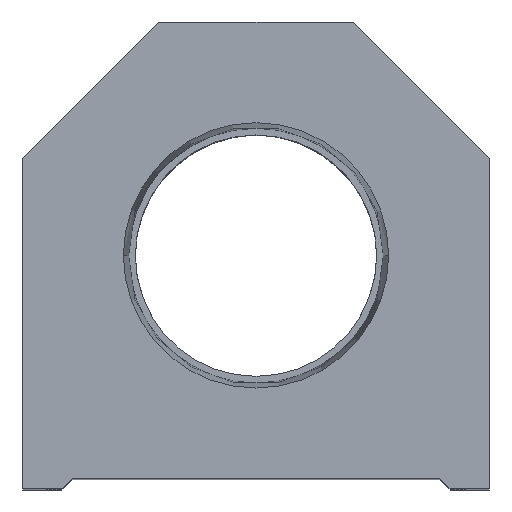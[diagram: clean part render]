
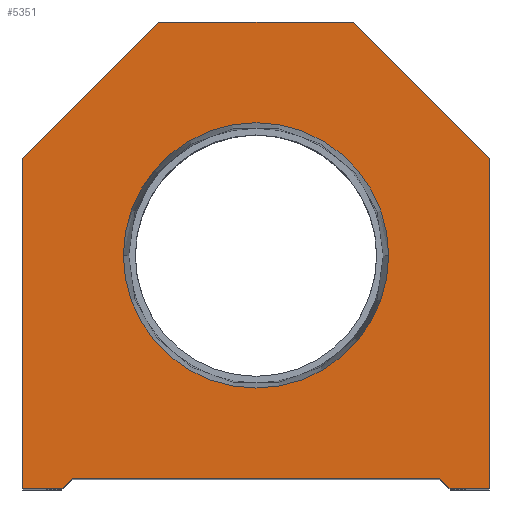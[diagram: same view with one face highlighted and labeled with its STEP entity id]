
A CAD part, top view. The second image highlights one B-rep face of the part: STEP entity #5351.
In plain terms, the highlighted planar face has unit normal (0, 0, 1).
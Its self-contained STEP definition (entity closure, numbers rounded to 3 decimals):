
#91 = CARTESIAN_POINT ( 'NONE',  ( -22.25, 0., 0. ) ) ;
#98 = ORIENTED_EDGE ( 'NONE', *, *, #8932, .T. ) ;
#340 = ORIENTED_EDGE ( 'NONE', *, *, #9109, .T. ) ;
#350 = DIRECTION ( 'NONE',  ( 0., 0., 1. ) ) ;
#809 = VERTEX_POINT ( 'NONE', #8185 ) ;
#838 = DIRECTION ( 'NONE',  ( -1., 0., 0. ) ) ;
#1093 = FACE_BOUND ( 'NONE', #5544, .T. ) ;
#1149 = VECTOR ( 'NONE', #12521, 1000. ) ;
#1247 = CARTESIAN_POINT ( 'NONE',  ( 12.647, 22.25, 0. ) ) ;
#1600 = EDGE_CURVE ( 'NONE', #8613, #6154, #11568, .T. ) ;
#1685 = CARTESIAN_POINT ( 'NONE',  ( 9.25, 44.5, 0. ) ) ;
#1744 = VERTEX_POINT ( 'NONE', #91 ) ;
#1757 = DIRECTION ( 'NONE',  ( 0.707, 0.707, 0. ) ) ;
#1796 = LINE ( 'NONE', #6098, #8555 ) ;
#1819 = VECTOR ( 'NONE', #838, 1000. ) ;
#1822 = EDGE_CURVE ( 'NONE', #6781, #12343, #13890, .T. ) ;
#1835 = ORIENTED_EDGE ( 'NONE', *, *, #12885, .T. ) ;
#1958 = ORIENTED_EDGE ( 'NONE', *, *, #10977, .T. ) ;
#2007 = VERTEX_POINT ( 'NONE', #12438 ) ;
#2249 = ORIENTED_EDGE ( 'NONE', *, *, #3517, .T. ) ;
#2461 = VECTOR ( 'NONE', #8399, 1000. ) ;
#2490 = VERTEX_POINT ( 'NONE', #4259 ) ;
#2636 = CARTESIAN_POINT ( 'NONE',  ( -12.647, 22.25, 0. ) ) ;
#2810 = ORIENTED_EDGE ( 'NONE', *, *, #1600, .T. ) ;
#3210 = VECTOR ( 'NONE', #1757, 1000. ) ;
#3247 = EDGE_CURVE ( 'NONE', #809, #1744, #6111, .T. ) ;
#3327 = PLANE ( 'NONE',  #4401 ) ;
#3517 = EDGE_CURVE ( 'NONE', #2490, #12066, #10324, .T. ) ;
#3740 = EDGE_CURVE ( 'NONE', #12062, #2007, #9640, .T. ) ;
#4259 = CARTESIAN_POINT ( 'NONE',  ( -18.5, 0., 0. ) ) ;
#4401 = AXIS2_PLACEMENT_3D ( 'NONE', #7799, #10992, #13201 ) ;
#4911 = DIRECTION ( 'NONE',  ( 1., 0., 0. ) ) ;
#5023 = DIRECTION ( 'NONE',  ( -0.707, 0.707, 0. ) ) ;
#5351 = ADVANCED_FACE ( 'NONE', ( #1093, #12127 ), #3327, .T. ) ;
#5436 = DIRECTION ( 'NONE',  ( 0.707, -0.707, 0. ) ) ;
#5447 = ORIENTED_EDGE ( 'NONE', *, *, #3247, .T. ) ;
#5539 = CARTESIAN_POINT ( 'NONE',  ( 22.25, 0., 0. ) ) ;
#5544 = EDGE_LOOP ( 'NONE', ( #7643, #9717 ) ) ;
#5680 = CARTESIAN_POINT ( 'NONE',  ( -17.5, 0., 0. ) ) ;
#6098 = CARTESIAN_POINT ( 'NONE',  ( -17.5, 1., 0. ) ) ;
#6111 = LINE ( 'NONE', #9160, #9795 ) ;
#6122 = CARTESIAN_POINT ( 'NONE',  ( 9.25, 44.5, 0. ) ) ;
#6127 = CARTESIAN_POINT ( 'NONE',  ( 0., 22.25, 0. ) ) ;
#6154 = VERTEX_POINT ( 'NONE', #1685 ) ;
#6186 = VERTEX_POINT ( 'NONE', #10384 ) ;
#6781 = VERTEX_POINT ( 'NONE', #2636 ) ;
#6907 = AXIS2_PLACEMENT_3D ( 'NONE', #10026, #350, #4911 ) ;
#7323 = EDGE_CURVE ( 'NONE', #12343, #6781, #13036, .T. ) ;
#7643 = ORIENTED_EDGE ( 'NONE', *, *, #7323, .F. ) ;
#7799 = CARTESIAN_POINT ( 'NONE',  ( 0., 0., 0. ) ) ;
#7832 = LINE ( 'NONE', #5680, #10107 ) ;
#7867 = DIRECTION ( 'NONE',  ( 1., 0., 0. ) ) ;
#8145 = ORIENTED_EDGE ( 'NONE', *, *, #3740, .T. ) ;
#8185 = CARTESIAN_POINT ( 'NONE',  ( -22.25, 31.5, 0. ) ) ;
#8297 = DIRECTION ( 'NONE',  ( 0., -1., 0. ) ) ;
#8311 = DIRECTION ( 'NONE',  ( 0., 0., 1. ) ) ;
#8399 = DIRECTION ( 'NONE',  ( -0.707, -0.707, 0. ) ) ;
#8555 = VECTOR ( 'NONE', #11434, 1000. ) ;
#8613 = VERTEX_POINT ( 'NONE', #12757 ) ;
#8670 = CARTESIAN_POINT ( 'NONE',  ( -9.25, 44.5, 0. ) ) ;
#8932 = EDGE_CURVE ( 'NONE', #6186, #8613, #10876, .T. ) ;
#9109 = EDGE_CURVE ( 'NONE', #1744, #2490, #7832, .T. ) ;
#9160 = CARTESIAN_POINT ( 'NONE',  ( -22.25, 0., 0. ) ) ;
#9235 = CARTESIAN_POINT ( 'NONE',  ( 17.5, 0., 0. ) ) ;
#9640 = LINE ( 'NONE', #9855, #13899 ) ;
#9664 = VERTEX_POINT ( 'NONE', #8670 ) ;
#9717 = ORIENTED_EDGE ( 'NONE', *, *, #1822, .F. ) ;
#9795 = VECTOR ( 'NONE', #8297, 1000. ) ;
#9855 = CARTESIAN_POINT ( 'NONE',  ( 9.25, 9.25, 0. ) ) ;
#10020 = DIRECTION ( 'NONE',  ( 1., 0., 0. ) ) ;
#10026 = CARTESIAN_POINT ( 'NONE',  ( 0., 22.25, 0. ) ) ;
#10107 = VECTOR ( 'NONE', #10020, 1000. ) ;
#10160 = CARTESIAN_POINT ( 'NONE',  ( 17.5, 1., 0. ) ) ;
#10223 = EDGE_LOOP ( 'NONE', ( #340, #2249, #11705, #8145, #1958, #98, #2810, #1835, #10943, #5447 ) ) ;
#10324 = LINE ( 'NONE', #13739, #3210 ) ;
#10347 = LINE ( 'NONE', #12554, #2461 ) ;
#10384 = CARTESIAN_POINT ( 'NONE',  ( 22.25, 0., 0. ) ) ;
#10876 = LINE ( 'NONE', #5539, #12379 ) ;
#10943 = ORIENTED_EDGE ( 'NONE', *, *, #11636, .T. ) ;
#10977 = EDGE_CURVE ( 'NONE', #2007, #6186, #13311, .T. ) ;
#10992 = DIRECTION ( 'NONE',  ( 0., 0., 1. ) ) ;
#11419 = EDGE_CURVE ( 'NONE', #12066, #12062, #1796, .T. ) ;
#11434 = DIRECTION ( 'NONE',  ( 1., 0., 0. ) ) ;
#11530 = LINE ( 'NONE', #6122, #1819 ) ;
#11568 = LINE ( 'NONE', #12631, #13197 ) ;
#11636 = EDGE_CURVE ( 'NONE', #9664, #809, #10347, .T. ) ;
#11705 = ORIENTED_EDGE ( 'NONE', *, *, #11419, .T. ) ;
#11727 = DIRECTION ( 'NONE',  ( 0., 1., 0. ) ) ;
#12062 = VERTEX_POINT ( 'NONE', #10160 ) ;
#12066 = VERTEX_POINT ( 'NONE', #13431 ) ;
#12127 = FACE_OUTER_BOUND ( 'NONE', #10223, .T. ) ;
#12343 = VERTEX_POINT ( 'NONE', #1247 ) ;
#12379 = VECTOR ( 'NONE', #11727, 1000. ) ;
#12438 = CARTESIAN_POINT ( 'NONE',  ( 18.5, 0., 0. ) ) ;
#12521 = DIRECTION ( 'NONE',  ( 1., 0., 0. ) ) ;
#12532 = AXIS2_PLACEMENT_3D ( 'NONE', #6127, #8311, #7867 ) ;
#12554 = CARTESIAN_POINT ( 'NONE',  ( -22.25, 31.5, 0. ) ) ;
#12631 = CARTESIAN_POINT ( 'NONE',  ( 22.25, 31.5, 0. ) ) ;
#12757 = CARTESIAN_POINT ( 'NONE',  ( 22.25, 31.5, 0. ) ) ;
#12885 = EDGE_CURVE ( 'NONE', #6154, #9664, #11530, .T. ) ;
#13036 = CIRCLE ( 'NONE', #6907, 12.647 ) ;
#13197 = VECTOR ( 'NONE', #5023, 1000. ) ;
#13201 = DIRECTION ( 'NONE',  ( 1., 0., 0. ) ) ;
#13311 = LINE ( 'NONE', #9235, #1149 ) ;
#13431 = CARTESIAN_POINT ( 'NONE',  ( -17.5, 1., 0. ) ) ;
#13739 = CARTESIAN_POINT ( 'NONE',  ( -9.25, 9.25, 0. ) ) ;
#13890 = CIRCLE ( 'NONE', #12532, 12.647 ) ;
#13899 = VECTOR ( 'NONE', #5436, 1000. ) ;
